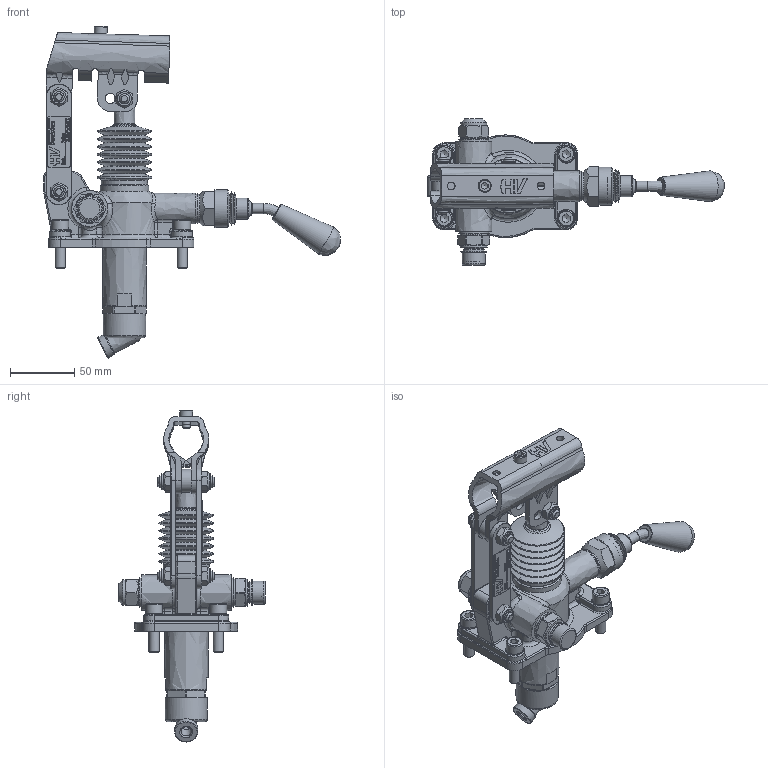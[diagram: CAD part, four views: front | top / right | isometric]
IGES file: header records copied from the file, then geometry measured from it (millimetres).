
Global section: file name: No Iges File Name specified; native system: Autodesk Inventor 2013; preprocessor: AutoDesk Inventor Iges Exporter R2013; author: christian.scardovi; date: 20240227.160218; units: millimetre
Bounding box: 231.27 x 114 x 258.54 mm (x, y, z)
Volume: 2687.2 mm3; surface area: 145864.5 mm2
Topology: 28 solids, 29 shells, 1654 faces, 4045 edges, 2541 vertices
Faces by surface type: bspline 1654
